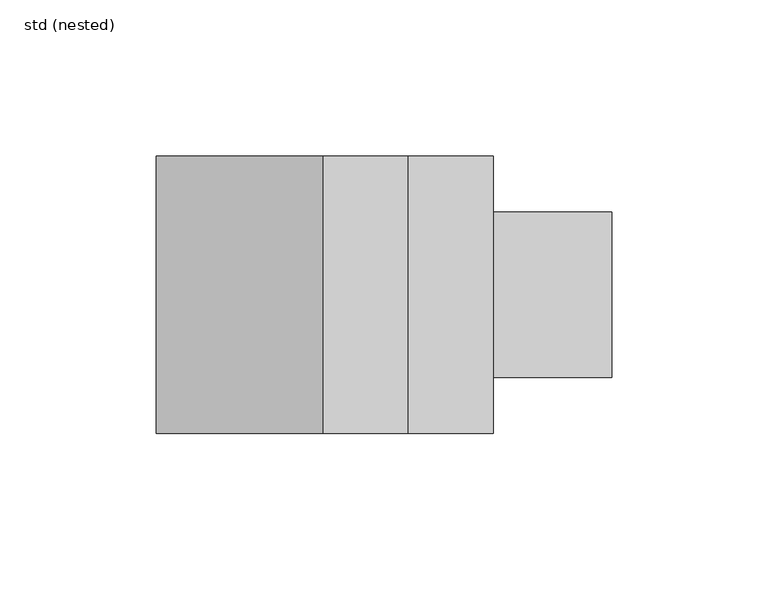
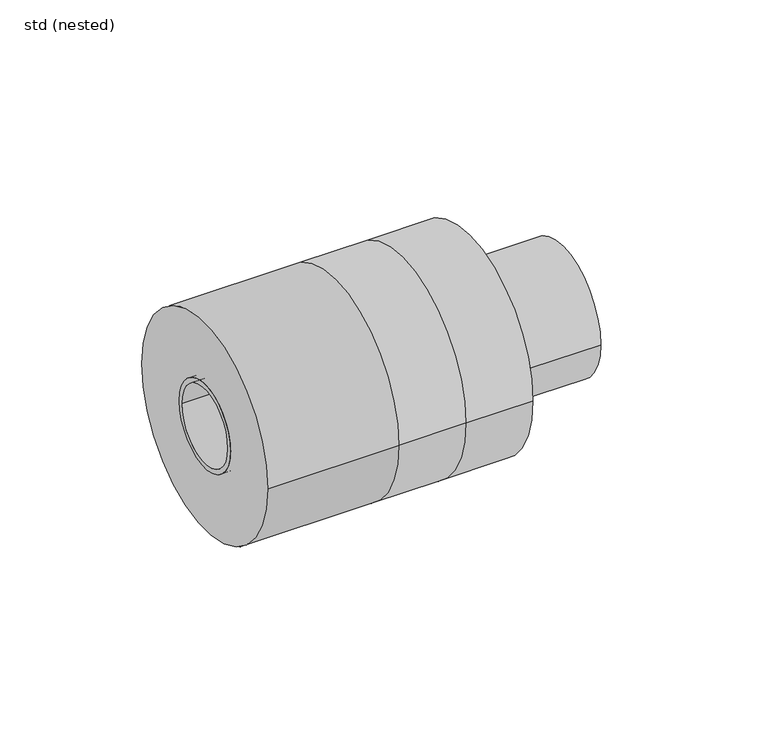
"""IFC4 building model written with IfcOpenShell, lengths in millimetres: pipe fitting geometry, ZZZ_do not use_PIF_ST_WPB_GM-X compound pipe reducer_ACO : std (nested)."""

from ifc_helpers import new_model, si_unit, point, frame, origin, origin_2d, place, context, project, spatial, polyline, circle_curve, trimmed, segment, composite_curve, outline, extrude, source, transform, mapped, element, save
from ifc_brep_helpers import plane_surface, cylinder_surface, revolved_surface, advanced_brep


def std_nested_b5da4da4(model_context):
    return source(origin(), model_context, "Body", "SolidModel", [
        advanced_brep(
        [(-142.6, -19.5, 0.0), (-142.6, 19.5, 0.0), (-131.0, 19.5, 0.0), (-131.0, -19.5, 0.0), (-146.0, 18.0, 0.0), (-146.0, -18.0, 0.0), (-146.0, -16.0, 0.0), (-146.0, 16.0, 0.0), (-120.0, 18.0, 0.0), (-120.0, -18.0, 0.0), (-120.0, 16.0, 0.0), (-120.0, -16.0, 0.0), (-142.6, 18.0, 0.0), (-142.6, -18.0, 0.0), (-131.0, -18.0, 0.0), (-131.0, 18.0, 0.0)],
        [
            (0, 1, circle_curve(frame((-142.6, 0.0, 0.0), z_axis=(1.0, 0.0, 0.0), x_axis=(0.0, -1.0, 0.0)), 19.5)),
            (1, 2),
            (2, 3, circle_curve(frame((-131.0, 0.0, 0.0), z_axis=(-1.0, 0.0, 0.0), x_axis=(0.0, -1.0, 0.0)), 19.5)),
            (3, 0),
            (1, 0, circle_curve(frame((-142.6, 0.0, 0.0), z_axis=(1.0, 0.0, 0.0), x_axis=(0.0, -1.0, 0.0)), 19.5)),
            (3, 2, circle_curve(frame((-131.0, 0.0, 0.0), z_axis=(-1.0, 0.0, 0.0), x_axis=(0.0, -1.0, 0.0)), 19.5)),
            (4, 5, circle_curve(frame((-146.0, 0.0, 0.0), z_axis=(-1.0, 0.0, 0.0), x_axis=(0.0, -1.0, 0.0)), 18.0)),
            (5, 4, circle_curve(frame((-146.0, 0.0, 0.0), z_axis=(-1.0, 0.0, 0.0), x_axis=(0.0, -1.0, 0.0)), 18.0)),
            (6, 7, circle_curve(frame((-146.0, 0.0, 0.0), z_axis=(1.0, 0.0, 0.0), x_axis=(0.0, -1.0, 0.0)), 16.0)),
            (7, 6, circle_curve(frame((-146.0, 0.0, 0.0), z_axis=(1.0, 0.0, 0.0), x_axis=(0.0, -1.0, 0.0)), 16.0)),
            (8, 9, circle_curve(frame((-120.0, 0.0, 0.0), z_axis=(1.0, 0.0, 0.0), x_axis=(0.0, -1.0, 0.0)), 18.0)),
            (9, 8, circle_curve(frame((-120.0, 0.0, 0.0), z_axis=(1.0, 0.0, 0.0), x_axis=(0.0, -1.0, 0.0)), 18.0)),
            (10, 11, circle_curve(frame((-120.0, 0.0, 0.0), z_axis=(-1.0, 0.0, 0.0), x_axis=(0.0, -1.0, 0.0)), 16.0)),
            (11, 10, circle_curve(frame((-120.0, 0.0, 0.0), z_axis=(-1.0, 0.0, 0.0), x_axis=(0.0, -1.0, 0.0)), 16.0)),
            (4, 12),
            (12, 13, circle_curve(frame((-142.6, 0.0, 0.0), z_axis=(-1.0, 0.0, 0.0), x_axis=(0.0, -1.0, 0.0)), 18.0)),
            (13, 5),
            (9, 14),
            (14, 15, circle_curve(frame((-131.0, 0.0, 0.0), z_axis=(1.0, 0.0, 0.0), x_axis=(0.0, -1.0, 0.0)), 18.0)),
            (15, 8),
            (13, 12, circle_curve(frame((-142.6, 0.0, 0.0), z_axis=(-1.0, 0.0, 0.0), x_axis=(0.0, -1.0, 0.0)), 18.0)),
            (15, 14, circle_curve(frame((-131.0, 0.0, 0.0), z_axis=(1.0, 0.0, 0.0), x_axis=(0.0, -1.0, 0.0)), 18.0)),
            (6, 11),
            (10, 7),
        ],
        [
            cylinder_surface(frame((-131.0, 0.0, 0.0), z_axis=(-1.0, 0.0, 0.0), x_axis=(0.0, -1.0, 0.0)), 19.5),
            plane_surface(frame((-146.0, -18.0, 0.0), z_axis=(-1.0, 0.0, 0.0), x_axis=(0.0, 0.0, 1.0))),
            plane_surface(frame((-120.0, -18.0, 0.0), z_axis=(1.0, 0.0, 0.0), x_axis=(0.0, 0.0, -1.0))),
            cylinder_surface(frame((-120.0, 0.0, 0.0), z_axis=(-1.0, 0.0, 0.0), x_axis=(0.0, -1.0, 0.0)), 18.0),
            revolved_surface(polyline([(-146.0, -16.0, 0.0), (-120.0, -16.0, 0.0)]), (-120.0, 0.0, 0.0), (-1.0, 0.0, 0.0)),
            plane_surface(frame((-142.6, -19.5, 0.0), z_axis=(-1.0, 0.0, 0.0), x_axis=(0.0, 0.0, 1.0))),
            plane_surface(frame((-131.0, -19.5, 0.0), z_axis=(1.0, 0.0, 0.0), x_axis=(0.0, 0.0, -1.0))),
        ],
        [
            (0, [[1, 2, 3, 4]]),
            (0, [[5, -4, 6, -2]]),
            (1, [[7, 8], [9, 10]]),
            (2, [[11, 12], [13, 14]]),
            (3, [[-7, 15, 16, 17]]),
            (3, [[-12, 18, 19, 20]]),
            (3, [[-8, -17, 21, -15]]),
            (3, [[-11, -20, 22, -18]]),
            (4, [[23, -13, 24, -9]]),
            (4, [[-23, -10, -24, -14]]),
            (5, [[-1, -5], [-16, -21]]),
            (6, [[-6, -3], [-19, -22]]),
        ],
    ),
        advanced_brep(
        [(-146.0, -44.5, 0.0), (-146.0, 44.5, 0.0), (-146.0, 18.0, 0.0), (-146.0, -18.0, 0.0), (-92.6666667, -44.5, 0.0), (-92.6666667, 44.5, 0.0), (-120.0, -18.0, 0.0), (-120.0, 18.0, 0.0), (-65.3333333, 44.5, 0.0), (-65.3333333, -44.5, 0.0), (-38.0, 44.5, 0.0), (-38.0, -44.5, 0.0)],
        [
            (0, 1, circle_curve(frame((-146.0, 0.0, 0.0), z_axis=(-1.0, 0.0, 0.0), x_axis=(0.0, 1.0, 0.0)), 44.5)),
            (1, 0, circle_curve(frame((-146.0, 0.0, 0.0), z_axis=(-1.0, 0.0, 0.0), x_axis=(0.0, 1.0, 0.0)), 44.5)),
            (2, 3, circle_curve(frame((-146.0, 0.0, 0.0), z_axis=(1.0, 0.0, 0.0), x_axis=(0.0, 1.0, 0.0)), 18.0)),
            (3, 2, circle_curve(frame((-146.0, 0.0, 0.0), z_axis=(1.0, 0.0, 0.0), x_axis=(0.0, 1.0, 0.0)), 18.0)),
            (0, 4),
            (4, 5, circle_curve(frame((-92.6666667, 0.0, 0.0), z_axis=(-1.0, 0.0, 0.0), x_axis=(0.0, 1.0, 0.0)), 44.5)),
            (5, 1),
            (5, 4, circle_curve(frame((-92.6666667, 0.0, 0.0), z_axis=(-1.0, 0.0, 0.0), x_axis=(0.0, 1.0, 0.0)), 44.5)),
            (6, 7, circle_curve(frame((-120.0, 0.0, 0.0), z_axis=(-1.0, 0.0, 0.0), x_axis=(0.0, 1.0, 0.0)), 18.0)),
            (7, 6, circle_curve(frame((-120.0, 0.0, 0.0), z_axis=(-1.0, 0.0, 0.0), x_axis=(0.0, 1.0, 0.0)), 18.0)),
            (6, 3),
            (2, 7),
            (5, 8),
            (8, 9, circle_curve(frame((-65.3333333, 0.0, 0.0), z_axis=(-1.0, 0.0, 0.0), x_axis=(0.0, 0.0, -1.0)), 44.5)),
            (9, 4),
            (9, 8, circle_curve(frame((-65.3333333, 0.0, 0.0), z_axis=(-1.0, 0.0, 0.0), x_axis=(0.0, 0.0, 1.0)), 44.5)),
            (10, 11, circle_curve(frame((-38.0, 0.0, 0.0), z_axis=(1.0, 0.0, 0.0), x_axis=(0.0, -1.0, 0.0)), 44.5)),
            (11, 10, circle_curve(frame((-38.0, 0.0, 0.0), z_axis=(1.0, 0.0, 0.0), x_axis=(0.0, -1.0, 0.0)), 44.5)),
            (10, 8),
            (9, 11),
        ],
        [
            plane_surface(frame((-146.0, 44.5, 0.0), z_axis=(-1.0, 0.0, 0.0), x_axis=(0.0, 0.0, -1.0))),
            cylinder_surface(frame((-92.6666667, 0.0, 0.0), z_axis=(-1.0, 0.0, 0.0), x_axis=(0.0, 1.0, 0.0)), 44.5),
            plane_surface(frame((-120.0, 18.0, 0.0), z_axis=(-1.0, 0.0, 0.0), x_axis=(0.0, 0.0, 1.0))),
            revolved_surface(polyline([(-146.0, 18.0, 0.0), (-120.0, 18.0, 0.0)]), (-120.0, 0.0, 0.0), (-1.0, 0.0, 0.0)),
            cylinder_surface(frame((-92.6666667, 0.0, 0.0), z_axis=(1.0, 0.0, 0.0), x_axis=(0.0, 0.0, -1.0)), 44.5),
            cylinder_surface(frame((-92.6666667, 0.0, 0.0), z_axis=(1.0, 0.0, 0.0), x_axis=(0.0, 0.0, 1.0)), 44.5),
            plane_surface(frame((-38.0, -44.5, 0.0), z_axis=(1.0, 0.0, 0.0), x_axis=(0.0, 0.0, -1.0))),
            cylinder_surface(frame((-65.3333333, 0.0, 0.0), z_axis=(1.0, 0.0, 0.0), x_axis=(0.0, -1.0, 0.0)), 44.5),
        ],
        [
            (0, [[1, 2], [3, 4]]),
            (1, [[-1, 5, 6, 7]]),
            (1, [[-2, -7, 8, -5]]),
            (2, [[9, 10]]),
            (3, [[-9, 11, -3, 12]]),
            (3, [[-10, -12, -4, -11]]),
            (4, [[13, 14, 15, -8]]),
            (5, [[-13, -6, -15, 16]]),
            (6, [[17, 18]]),
            (7, [[-17, 19, -16, 20]]),
            (7, [[-18, -20, -14, -19]]),
        ],
    ),
        extrude(outline(composite_curve([segment(trimmed(circle_curve(origin_2d(), 26.5), [point((26.5, 0.0))], [point((-26.5, 0.0))], False, "CARTESIAN"), True, "CONTINUOUS"), segment(trimmed(circle_curve(origin_2d(), 26.5), [point((-26.5, 0.0))], [point((26.5, 0.0))], False, "CARTESIAN"), True, "CONTINUOUS")], self_intersect=False)), frame((-38.0, 0.0, 0.0), z_axis=(1.0, 0.0, 0.0), x_axis=(0.0, 1.0, 0.0)), (0.0, 0.0, 1.0), 38.0),
    ])


if __name__ == "__main__":
    model = new_model("IFC4")
    model_context = context("Model", 3, world=origin())
    ifc_project = project(units=[si_unit("LENGTHUNIT", "METRE", prefix="MILLI")], contexts=[model_context])
    site = spatial("IfcSite", under=ifc_project)
    building = spatial("IfcBuilding", under=site)
    placement = place(None, origin())
    std_nested_shape = std_nested_b5da4da4(model_context)
    element("IfcPipeFitting", 1, ObjectType="ZZZ_do not use_PIF_ST_WPB_GM-X compound pipe reducer_ACO : std (nested)", at=placement, inside=building, context=model_context, shape_type="MappedRepresentation", body=[
        mapped(std_nested_shape, transform((0.0, 0.0, 0.0), x_axis=(1.0, 0.0, 0.0), y_axis=(0.0, 1.0, 0.0), z_axis=(0.0, 0.0, 1.0))),
    ])
    save(model, "model.ifc")
